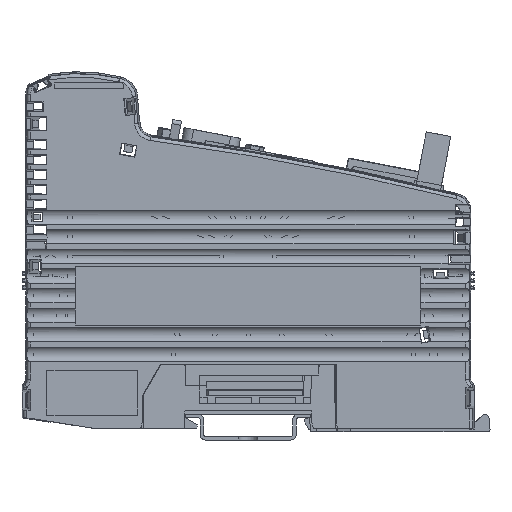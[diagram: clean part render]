
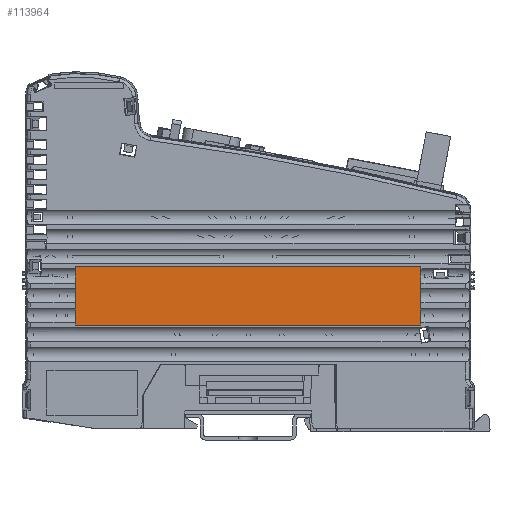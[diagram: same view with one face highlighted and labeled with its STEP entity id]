
A CAD part, left-side view. The second image highlights one B-rep face of the part: STEP entity #113964.
In plain terms, the highlighted planar face has unit normal (-1, 0, 0).
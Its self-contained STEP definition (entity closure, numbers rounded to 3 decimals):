
#9326=ORIENTED_EDGE('',*,*,#41657,.T.);
#9327=ORIENTED_EDGE('',*,*,#41656,.T.);
#9328=ORIENTED_EDGE('',*,*,#41659,.T.);
#9329=ORIENTED_EDGE('',*,*,#41651,.T.);
#9330=ORIENTED_EDGE('',*,*,#41653,.T.);
#9331=ORIENTED_EDGE('',*,*,#41654,.T.);
#9332=ORIENTED_EDGE('',*,*,#41660,.T.);
#9333=ORIENTED_EDGE('',*,*,#41661,.T.);
#9334=ORIENTED_EDGE('',*,*,#41662,.T.);
#9335=ORIENTED_EDGE('',*,*,#41658,.T.);
#41651=EDGE_CURVE('',#58096,#57230,#69608,.T.);
#41653=EDGE_CURVE('',#57230,#57237,#69610,.T.);
#41654=EDGE_CURVE('',#57237,#57240,#69611,.T.);
#41656=EDGE_CURVE('',#58093,#58097,#69613,.T.);
#41657=EDGE_CURVE('',#58094,#58093,#69614,.T.);
#41658=EDGE_CURVE('',#58095,#58094,#69615,.T.);
#41659=EDGE_CURVE('',#58097,#58096,#69616,.T.);
#41660=EDGE_CURVE('',#57240,#58098,#69617,.T.);
#41661=EDGE_CURVE('',#58098,#58099,#69618,.T.);
#41662=EDGE_CURVE('',#58099,#58095,#69619,.T.);
#57230=VERTEX_POINT('',#176950);
#57237=VERTEX_POINT('',#177055);
#57240=VERTEX_POINT('',#177162);
#58093=VERTEX_POINT('',#182015);
#58094=VERTEX_POINT('',#182019);
#58095=VERTEX_POINT('',#182023);
#58096=VERTEX_POINT('',#182028);
#58097=VERTEX_POINT('',#182036);
#58098=VERTEX_POINT('',#182045);
#58099=VERTEX_POINT('',#182047);
#69608=LINE('',#182027,#83094);
#69610=LINE('',#182031,#83096);
#69611=LINE('',#182033,#83097);
#69613=LINE('',#182037,#83099);
#69614=LINE('',#182039,#83100);
#69615=LINE('',#182041,#83101);
#69616=LINE('',#182043,#83102);
#69617=LINE('',#182044,#83103);
#69618=LINE('',#182046,#83104);
#69619=LINE('',#182048,#83105);
#83094=VECTOR('',#148285,1000.);
#83096=VECTOR('',#148289,1000.);
#83097=VECTOR('',#148292,1000.);
#83099=VECTOR('',#148296,1000.);
#83100=VECTOR('',#148299,1000.);
#83101=VECTOR('',#148302,1000.);
#83102=VECTOR('',#148305,1000.);
#83103=VECTOR('',#148306,1000.);
#83104=VECTOR('',#148307,1000.);
#83105=VECTOR('',#148308,1000.);
#95641=EDGE_LOOP('',(#9326,#9327,#9328,#9329,#9330,#9331,#9332,#9333,#9334,
#9335));
#102409=FACE_BOUND('',#95641,.T.);
#108986=PLANE('',#137095);
#113964=ADVANCED_FACE('',(#102409),#108986,.T.);
#137095=AXIS2_PLACEMENT_3D('',#182042,#148303,#148304);
#148285=DIRECTION('',(0.,0.,-1.));
#148289=DIRECTION('',(0.,0.,-1.));
#148292=DIRECTION('',(0.,0.,-1.));
#148296=DIRECTION('',(0.,0.,1.));
#148299=DIRECTION('',(0.,0.,1.));
#148302=DIRECTION('',(0.,0.,1.));
#148303=DIRECTION('',(-1.,0.,0.));
#148304=DIRECTION('',(0.,-1.,0.));
#148305=DIRECTION('',(0.,1.,0.));
#148306=DIRECTION('',(0.,0.,-1.));
#148307=DIRECTION('',(0.,-1.,0.));
#148308=DIRECTION('',(0.,0.,1.));
#176950=CARTESIAN_POINT('',(-11.5,48.483,42.8));
#177055=CARTESIAN_POINT('',(-11.5,48.483,37.3));
#177162=CARTESIAN_POINT('',(-11.5,48.483,31.8));
#182015=CARTESIAN_POINT('',(-11.5,-48.483,42.8));
#182019=CARTESIAN_POINT('',(-11.5,-48.483,37.3));
#182023=CARTESIAN_POINT('',(-11.5,-48.483,31.8));
#182027=CARTESIAN_POINT('',(-11.5,48.483,29.));
#182028=CARTESIAN_POINT('',(-11.5,48.483,45.483));
#182031=CARTESIAN_POINT('',(-11.5,48.483,29.));
#182033=CARTESIAN_POINT('',(-11.5,48.483,29.));
#182036=CARTESIAN_POINT('',(-11.5,-48.483,45.483));
#182037=CARTESIAN_POINT('',(-11.5,-48.483,29.));
#182039=CARTESIAN_POINT('',(-11.5,-48.483,29.));
#182041=CARTESIAN_POINT('',(-11.5,-48.483,29.));
#182042=CARTESIAN_POINT('',(-11.5,48.5,29.));
#182043=CARTESIAN_POINT('',(-11.5,48.5,45.483));
#182044=CARTESIAN_POINT('',(-11.5,48.483,29.));
#182045=CARTESIAN_POINT('',(-11.5,48.483,29.017));
#182046=CARTESIAN_POINT('',(-11.5,48.5,29.017));
#182047=CARTESIAN_POINT('',(-11.5,-48.483,29.017));
#182048=CARTESIAN_POINT('',(-11.5,-48.483,29.));
